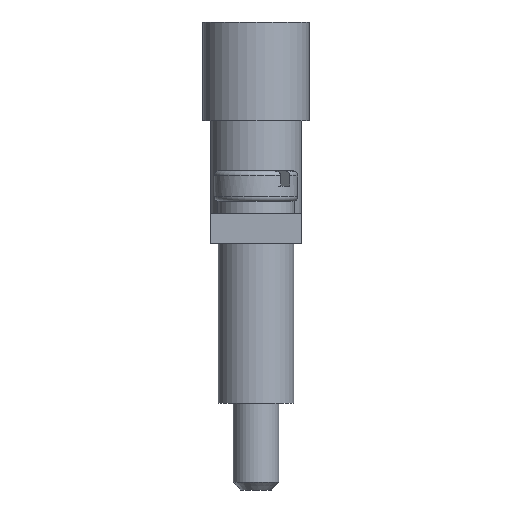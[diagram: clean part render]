
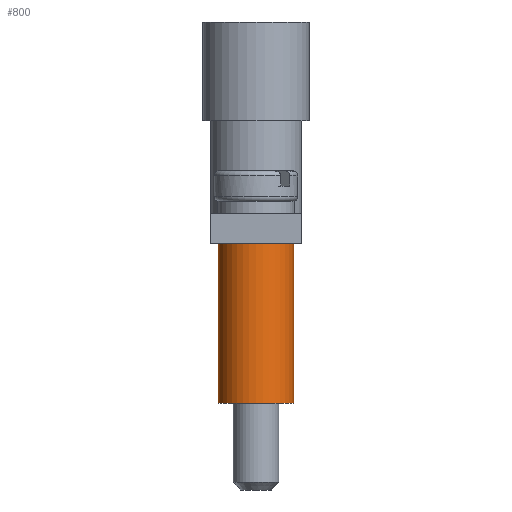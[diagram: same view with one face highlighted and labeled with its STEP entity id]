
A CAD part, left-side view. The second image highlights one B-rep face of the part: STEP entity #800.
In plain terms, the highlighted cylindrical face has radius 2.5 mm (diameter 5 mm), a full revolution.
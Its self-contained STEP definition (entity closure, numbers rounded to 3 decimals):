
#800=ADVANCED_FACE('',(#3002,#3004),#3006,.T.);
#3002=FACE_OUTER_BOUND('',#3003,.T.);
#3003=EDGE_LOOP('',(#4829));
#3004=FACE_OUTER_BOUND('',#3005,.T.);
#3005=EDGE_LOOP('',(#4830));
#3006=CYLINDRICAL_SURFACE('',#3007,2.5);
#3007=AXIS2_PLACEMENT_3D('',#3008,#3009,#3010);
#3008=CARTESIAN_POINT('',(3.5,3.,0.));
#3009=DIRECTION('',(0.,0.,-1.));
#3010=DIRECTION('',(0.,-1.,0.));
#4829=ORIENTED_EDGE('',*,*,#5601,.T.);
#4830=ORIENTED_EDGE('',*,*,#5769,.F.);
#5601=EDGE_CURVE('',#6233,#6233,#6234,.T.);
#5769=EDGE_CURVE('',#6491,#6491,#6492,.T.);
#6233=VERTEX_POINT('',#7348);
#6234=CIRCLE('',#7349,2.5);
#6491=VERTEX_POINT('',#7954);
#6492=CIRCLE('',#7955,2.5);
#7348=CARTESIAN_POINT('',(3.5,0.5,0.));
#7349=AXIS2_PLACEMENT_3D('',#7350,#7351,#7352);
#7350=CARTESIAN_POINT('',(3.5,3.,0.));
#7351=DIRECTION('',(0.,0.,-1.));
#7352=DIRECTION('',(0.,-1.,0.));
#7954=CARTESIAN_POINT('',(3.5,0.5,-10.5));
#7955=AXIS2_PLACEMENT_3D('',#7956,#7957,#7958);
#7956=CARTESIAN_POINT('',(3.5,3.,-10.5));
#7957=DIRECTION('',(0.,0.,-1.));
#7958=DIRECTION('',(0.,-1.,0.));
